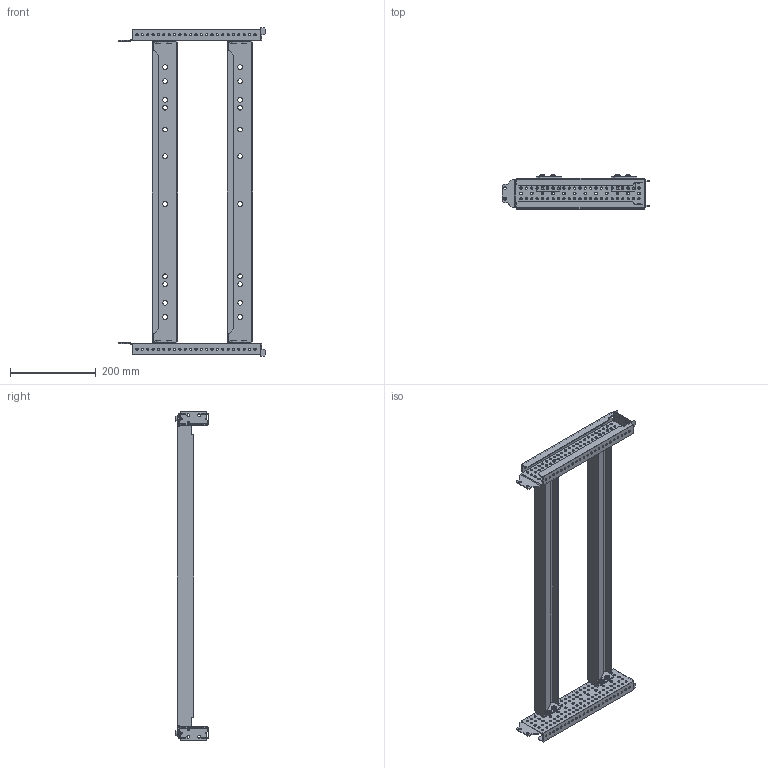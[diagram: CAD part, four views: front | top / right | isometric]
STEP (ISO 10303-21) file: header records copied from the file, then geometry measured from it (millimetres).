
FILE_DESCRIPTION (( 'STEP AP214' ), '1' );
FILE_NAME ('FO-00-EFG-060-080 Êîìïëåêò óñòàíîâî÷íûé ARMAT ACB òèïîðàçìåð G 3P EIIF 3II4P 600õ800.STEP', '2025-07-15T11:28:19', ( '' ), ( '' ), 'SwSTEP 2.0', 'SolidWorks 2023', '' );
FILE_SCHEMA (( 'AUTOMOTIVE_DESIGN' ));
Length unit declared in the file: millimetre
Products named in the file (4): Траверса поперечная для Armat ABC_G-3P E-F в шкаф 800 мм; Screw_DIN_7500_M6x10_Torx_T30; FO-00-EFG-060-080 Комплект установочный ARMAT ACB типоразмер G 3P EIIF 3II4P 600х800; Траверса возд. выключателя по глубине
Assembly tree (20 placements, depth 2):
  FO-00-EFG-060-080 Комплект установочный ARMAT ACB типоразмер G 3P EIIF 3II4P 600х800
    Траверса поперечная для Armat ABC_G-3P E-F в шкаф 800 мм  x2
    Траверса возд. выключателя по глубине  x2
    Screw_DIN_7500_M6x10_Torx_T30  x16
Bounding box: 344.49 x 79 x 766 mm (x, y, z)
Volume: 725856.8 mm3; surface area: 574836 mm2
Topology: 20 solids, 20 shells, 1500 faces, 4156 edges, 2728 vertices
Faces by surface type: cylinder 1012, plane 358, cone 64, torus 64, bspline 2
Entity records: 19104 total; most frequent: DIRECTION 3432, CARTESIAN_POINT 3226, ORIENTED_EDGE 3134, EDGE_CURVE 1567, AXIS2_PLACEMENT_3D 1313, VERTEX_POINT 1042, EDGE_LOOP 885, VECTOR 806
